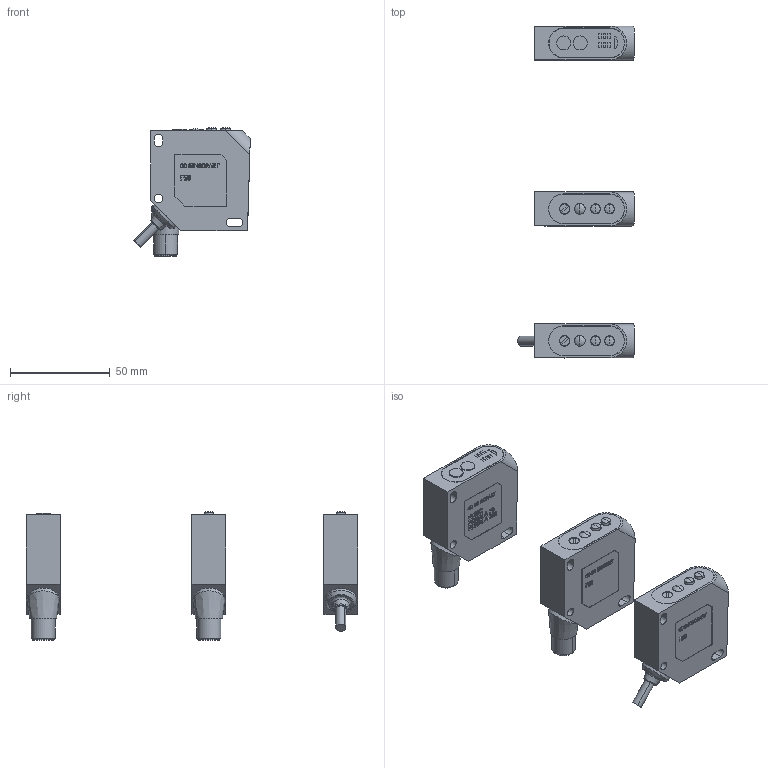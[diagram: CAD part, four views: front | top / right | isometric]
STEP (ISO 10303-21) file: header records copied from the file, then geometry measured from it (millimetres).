
FILE_DESCRIPTION((''),'2;1');
FILE_NAME('15300590_F50.stp','2010-04-20T13:28:48',(''),(''),'Mechanical Desktop 2009','Mechanical Desktop 2009',', , ');
FILE_SCHEMA(('CONFIG_CONTROL_DESIGN'));
Length unit declared in the file: millimetre
Products named in the file (1): ZEICHNUNG1
Bounding box: 58.34 x 166.11 x 64.5 mm (x, y, z)
Volume: 120424.3 mm3; surface area: 38062.5 mm2
Topology: 15 solids, 15 shells, 1304 faces, 3480 edges, 2297 vertices
Faces by surface type: plane 675, bspline 491, cylinder 114, cone 16, sphere 4, torus 4
Entity records: 43628 total; most frequent: CARTESIAN_POINT 14084, ORIENTED_EDGE 6936, DIRECTION 4432, EDGE_CURVE 3468, VERTEX_POINT 2297, VECTOR 2176, LINE 2176, EDGE_LOOP 1460
